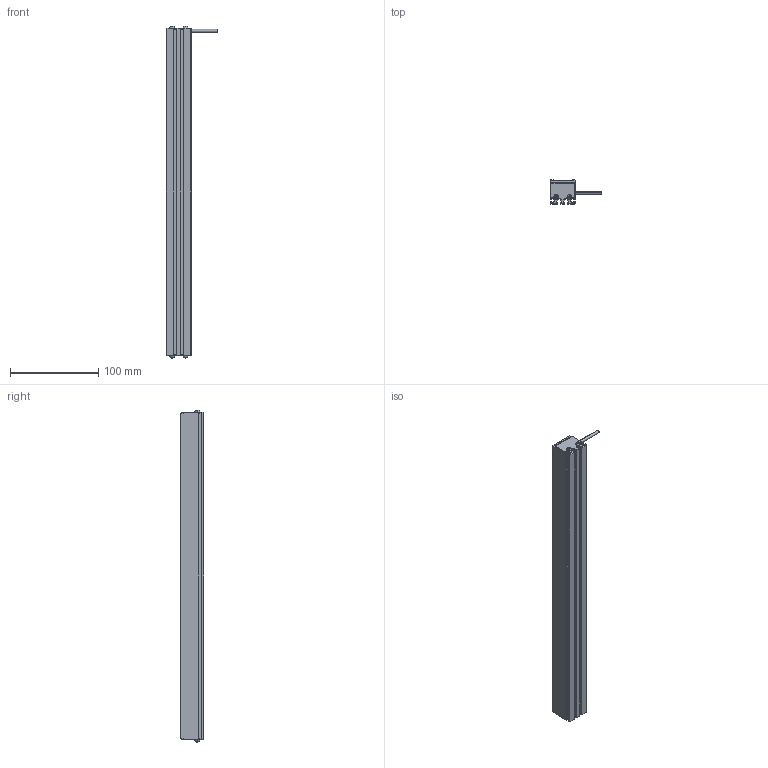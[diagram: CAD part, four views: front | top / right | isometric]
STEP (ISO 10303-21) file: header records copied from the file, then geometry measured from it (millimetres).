
FILE_DESCRIPTION((''),'2;1');
FILE_NAME('MV-LLDS-372-28_ASM','2020-12-30T',('Administrator'),(''),'PRO/ENGINEER BY PARAMETRIC TECHNOLOGY CORPORATION, 2010100','PRO/ENGINEER BY PARAMETRIC TECHNOLOGY CORPORATION, 2010100','');
FILE_SCHEMA(('CONFIG_CONTROL_DESIGN'));
Length unit declared in the file: millimetre
Products named in the file (3): BL-4_3_; M3-5_3; MV-LLDS-372-28_ASM
Assembly tree (5 placements, depth 2):
  MV-LLDS-372-28_ASM
    BL-4_3_
    M3-5_3  x4
Bounding box: 58 x 27 x 376.68 mm (x, y, z)
Volume: 233132.5 mm3; surface area: 87926.1 mm2
Topology: 5 solids, 13 shells, 303 faces, 802 edges, 516 vertices
Faces by surface type: plane 185, cylinder 70, cone 16, bspline 16, torus 8, sphere 8
Entity records: 6728 total; most frequent: CARTESIAN_POINT 1440, ORIENTED_EDGE 1074, DIRECTION 1069, EDGE_CURVE 547, VECTOR 397, LINE 397, VERTEX_POINT 357, AXIS2_PLACEMENT_3D 336
